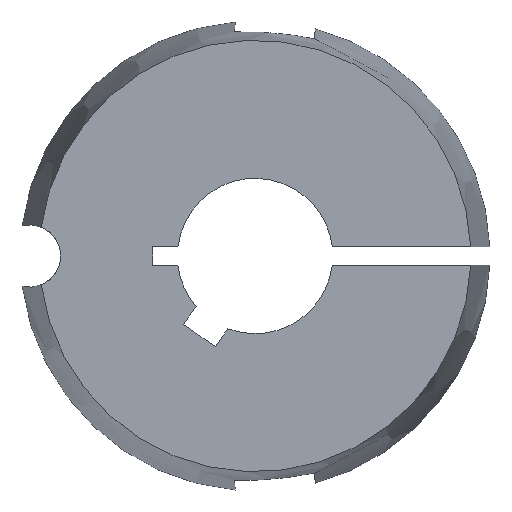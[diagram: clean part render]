
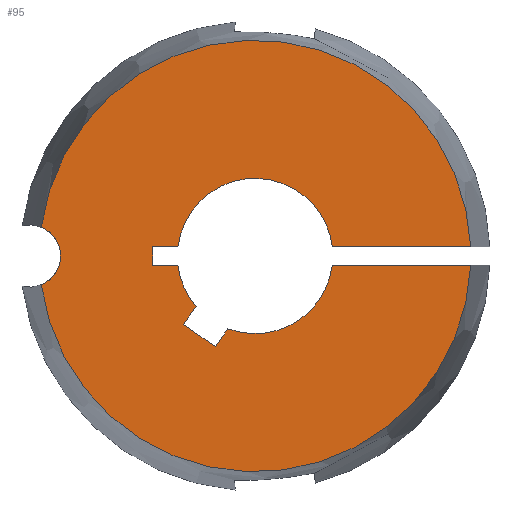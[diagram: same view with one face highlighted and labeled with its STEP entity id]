
A CAD part, left-side view. The second image highlights one B-rep face of the part: STEP entity #95.
In plain terms, the highlighted planar face has unit normal (-1, 0, 0).
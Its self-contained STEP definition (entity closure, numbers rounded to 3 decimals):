
#95 = ADVANCED_FACE( '', ( #142 ), #143, .T. );
#142 = FACE_OUTER_BOUND( '', #194, .T. );
#143 = PLANE( '', #195 );
#194 = EDGE_LOOP( '', ( #374, #375, #376, #377, #378, #379, #380, #381, #382, #383, #384, #385, #386, #387, #388, #389 ) );
#195 = AXIS2_PLACEMENT_3D( '', #390, #391, #392 );
#374 = ORIENTED_EDGE( '', *, *, #467, .T. );
#375 = ORIENTED_EDGE( '', *, *, #435, .T. );
#376 = ORIENTED_EDGE( '', *, *, #457, .T. );
#377 = ORIENTED_EDGE( '', *, *, #490, .T. );
#378 = ORIENTED_EDGE( '', *, *, #492, .T. );
#379 = ORIENTED_EDGE( '', *, *, #493, .T. );
#380 = ORIENTED_EDGE( '', *, *, #494, .T. );
#381 = ORIENTED_EDGE( '', *, *, #495, .T. );
#382 = ORIENTED_EDGE( '', *, *, #487, .T. );
#383 = ORIENTED_EDGE( '', *, *, #482, .T. );
#384 = ORIENTED_EDGE( '', *, *, #483, .T. );
#385 = ORIENTED_EDGE( '', *, *, #486, .T. );
#386 = ORIENTED_EDGE( '', *, *, #496, .T. );
#387 = ORIENTED_EDGE( '', *, *, #431, .T. );
#388 = ORIENTED_EDGE( '', *, *, #491, .T. );
#389 = ORIENTED_EDGE( '', *, *, #464, .T. );
#390 = CARTESIAN_POINT( '', ( -22.3, 8.82, 0. ) );
#391 = DIRECTION( '', ( -1., 0., 0. ) );
#392 = DIRECTION( '', ( 0., 1., 0. ) );
#431 = EDGE_CURVE( '', #501, #505, #507, .T. );
#435 = EDGE_CURVE( '', #509, #513, #515, .T. );
#457 = EDGE_CURVE( '', #513, #552, #554, .T. );
#464 = EDGE_CURVE( '', #564, #562, #565, .T. );
#467 = EDGE_CURVE( '', #562, #509, #569, .T. );
#482 = EDGE_CURVE( '', #591, #593, #595, .T. );
#483 = EDGE_CURVE( '', #593, #596, #597, .T. );
#486 = EDGE_CURVE( '', #596, #599, #601, .T. );
#487 = EDGE_CURVE( '', #602, #591, #603, .T. );
#490 = EDGE_CURVE( '', #552, #605, #607, .T. );
#491 = EDGE_CURVE( '', #505, #564, #608, .T. );
#492 = EDGE_CURVE( '', #605, #609, #610, .T. );
#493 = EDGE_CURVE( '', #609, #611, #612, .T. );
#494 = EDGE_CURVE( '', #611, #613, #614, .T. );
#495 = EDGE_CURVE( '', #613, #602, #615, .T. );
#496 = EDGE_CURVE( '', #599, #501, #616, .T. );
#501 = VERTEX_POINT( '', #621 );
#505 = VERTEX_POINT( '', #626 );
#507 = CIRCLE( '', #629, 6.35 );
#509 = VERTEX_POINT( '', #631 );
#513 = VERTEX_POINT( '', #636 );
#515 = CIRCLE( '', #647, 2.55 );
#552 = VERTEX_POINT( '', #748 );
#554 = CIRCLE( '', #759, 17.641 );
#562 = VERTEX_POINT( '', #797 );
#564 = VERTEX_POINT( '', #808 );
#565 = CIRCLE( '', #809, 17.641 );
#569 = CIRCLE( '', #822, 2.55 );
#591 = VERTEX_POINT( '', #852 );
#593 = VERTEX_POINT( '', #855 );
#595 = LINE( '', #858, #859 );
#596 = VERTEX_POINT( '', #860 );
#597 = LINE( '', #861, #862 );
#599 = VERTEX_POINT( '', #865 );
#601 = LINE( '', #868, #869 );
#602 = VERTEX_POINT( '', #870 );
#603 = CIRCLE( '', #871, 6.35 );
#605 = VERTEX_POINT( '', #874 );
#607 = LINE( '', #877, #878 );
#608 = LINE( '', #879, #880 );
#609 = VERTEX_POINT( '', #881 );
#610 = CIRCLE( '', #882, 6.35 );
#611 = VERTEX_POINT( '', #883 );
#612 = LINE( '', #884, #885 );
#613 = VERTEX_POINT( '', #886 );
#614 = LINE( '', #887, #888 );
#615 = LINE( '', #889, #890 );
#616 = CIRCLE( '', #891, 6.35 );
#621 = CARTESIAN_POINT( '', ( -22.3, -4.827, 4.126 ) );
#626 = CARTESIAN_POINT( '', ( -22.3, -6.306, 0.75 ) );
#629 = AXIS2_PLACEMENT_3D( '', #903, #904, #905 );
#631 = CARTESIAN_POINT( '', ( -22.3, 15.91, 0. ) );
#636 = CARTESIAN_POINT( '', ( -22.3, 17.483, -2.355 ) );
#647 = AXIS2_PLACEMENT_3D( '', #910, #911, #912 );
#748 = CARTESIAN_POINT( '', ( -22.3, -17.625, -0.75 ) );
#759 = AXIS2_PLACEMENT_3D( '', #941, #942, #943 );
#797 = CARTESIAN_POINT( '', ( -22.3, 17.483, 2.355 ) );
#808 = CARTESIAN_POINT( '', ( -22.3, -17.625, 0.75 ) );
#809 = AXIS2_PLACEMENT_3D( '', #953, #954, #955 );
#822 = AXIS2_PLACEMENT_3D( '', #959, #960, #961 );
#852 = CARTESIAN_POINT( '', ( -22.3, 6.306, -0.75 ) );
#855 = CARTESIAN_POINT( '', ( -22.3, 8.35, -0.75 ) );
#858 = CARTESIAN_POINT( '', ( -22.3, 4.41, -0.75 ) );
#859 = VECTOR( '', #984, 1. );
#860 = CARTESIAN_POINT( '', ( -22.3, 8.35, 0.75 ) );
#861 = CARTESIAN_POINT( '', ( -22.3, 8.35, -0.375 ) );
#862 = VECTOR( '', #985, 1. );
#865 = CARTESIAN_POINT( '', ( -22.3, 6.306, 0.75 ) );
#868 = CARTESIAN_POINT( '', ( -22.3, 8.585, 0.75 ) );
#869 = VECTOR( '', #988, 1. );
#870 = CARTESIAN_POINT( '', ( -22.3, 4.827, -4.126 ) );
#871 = AXIS2_PLACEMENT_3D( '', #989, #990, #991 );
#874 = CARTESIAN_POINT( '', ( -22.3, -6.306, -0.75 ) );
#877 = CARTESIAN_POINT( '', ( -22.3, -5.19, -0.75 ) );
#878 = VECTOR( '', #994, 1. );
#879 = CARTESIAN_POINT( '', ( -22.3, 4.41, 0.75 ) );
#880 = VECTOR( '', #995, 1. );
#881 = CARTESIAN_POINT( '', ( -22.3, 2.226, -5.947 ) );
#882 = AXIS2_PLACEMENT_3D( '', #996, #997, #998 );
#883 = CARTESIAN_POINT( '', ( -22.3, 3.252, -7.413 ) );
#884 = CARTESIAN_POINT( '', ( -22.3, 1.914, -5.501 ) );
#885 = VECTOR( '', #999, 1. );
#886 = CARTESIAN_POINT( '', ( -22.3, 5.853, -5.591 ) );
#887 = CARTESIAN_POINT( '', ( -22.3, 6.862, -4.885 ) );
#888 = VECTOR( '', #1000, 1. );
#889 = CARTESIAN_POINT( '', ( -22.3, 5.028, -4.413 ) );
#890 = VECTOR( '', #1001, 1. );
#891 = AXIS2_PLACEMENT_3D( '', #1002, #1003, #1004 );
#903 = CARTESIAN_POINT( '', ( -22.3, 0., 0. ) );
#904 = DIRECTION( '', ( 1., 0., 0. ) );
#905 = DIRECTION( '', ( 0., 0.76, -0.65 ) );
#910 = CARTESIAN_POINT( '', ( -22.3, 18.46, 0. ) );
#911 = DIRECTION( '', ( 1., 0., 0. ) );
#912 = DIRECTION( '', ( 0., 1., 0. ) );
#941 = CARTESIAN_POINT( '', ( -22.3, 0., 0. ) );
#942 = DIRECTION( '', ( -1., 0., 0. ) );
#943 = DIRECTION( '', ( 0., 1., 0. ) );
#953 = CARTESIAN_POINT( '', ( -22.3, 0., 0. ) );
#954 = DIRECTION( '', ( -1., 0., 0. ) );
#955 = DIRECTION( '', ( 0., 1., 0. ) );
#959 = CARTESIAN_POINT( '', ( -22.3, 18.46, 0. ) );
#960 = DIRECTION( '', ( 1., 0., 0. ) );
#961 = DIRECTION( '', ( 0., 1., 0. ) );
#984 = DIRECTION( '', ( 0., 1., 0. ) );
#985 = DIRECTION( '', ( 0., 0., 1. ) );
#988 = DIRECTION( '', ( 0., -1., 0. ) );
#989 = CARTESIAN_POINT( '', ( -22.3, 0., 0. ) );
#990 = DIRECTION( '', ( 1., 0., 0. ) );
#991 = DIRECTION( '', ( 0., 0.76, -0.65 ) );
#994 = DIRECTION( '', ( 0., 1., 0. ) );
#995 = DIRECTION( '', ( 0., -1., 0. ) );
#996 = CARTESIAN_POINT( '', ( -22.3, 0., 0. ) );
#997 = DIRECTION( '', ( 1., 0., 0. ) );
#998 = DIRECTION( '', ( 0., 0.76, -0.65 ) );
#999 = DIRECTION( '', ( 0., 0.574, -0.819 ) );
#1000 = DIRECTION( '', ( 0., 0.819, 0.574 ) );
#1001 = DIRECTION( '', ( 0., -0.574, 0.819 ) );
#1002 = CARTESIAN_POINT( '', ( -22.3, 0., 0. ) );
#1003 = DIRECTION( '', ( 1., 0., 0. ) );
#1004 = DIRECTION( '', ( 0., 0.76, -0.65 ) );
